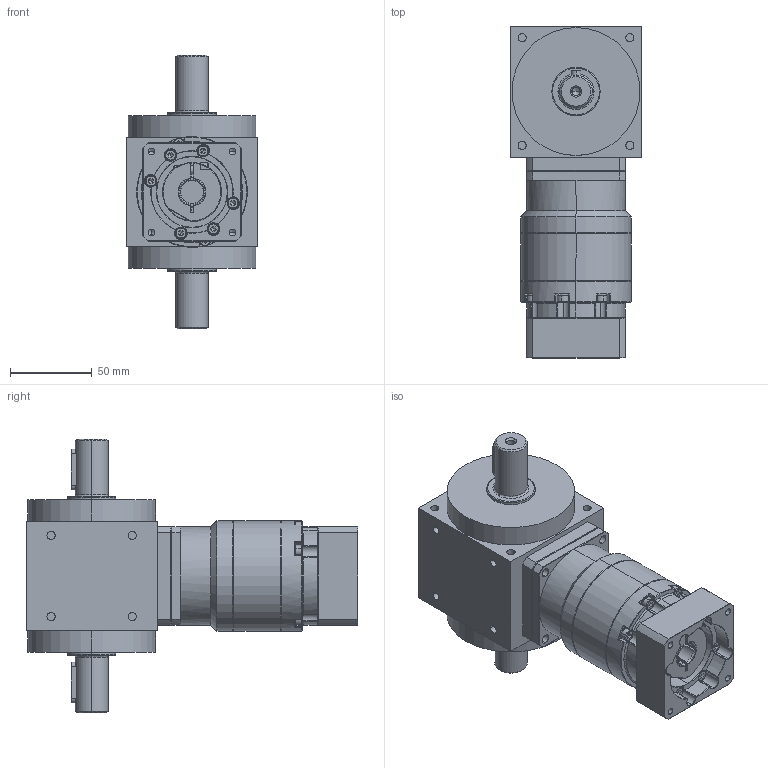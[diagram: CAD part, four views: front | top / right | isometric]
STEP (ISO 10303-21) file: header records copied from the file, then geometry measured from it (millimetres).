
FILE_DESCRIPTION (( 'STEP AP203' ), '1' );
FILE_NAME ('AAW080AS-L2-2P 14-50-70-M5.STEP', '2024-12-23T09:06:42', ( '' ), ( '' ), 'SwSTEP 2.0', 'SolidWorks 2021', '' );
FILE_SCHEMA (( 'CONFIG_CONTROL_DESIGN' ));
Length unit declared in the file: millimetre
Products named in the file (3): AAW080AS-L2-2P 14-50-70-M5; VRB-060-L2-S2-P1 14-50-70-M5; AAW080AS-2P
Assembly tree (2 placements, depth 2):
  AAW080AS-L2-2P 14-50-70-M5
    AAW080AS-2P
    VRB-060-L2-S2-P1 14-50-70-M5
Bounding box: 80 x 202.5 x 167 mm (x, y, z)
Volume: 867685.8 mm3; surface area: 126865.9 mm2
Topology: 33 solids, 33 shells, 1080 faces, 2601 edges, 1611 vertices
Faces by surface type: plane 420, cylinder 382, cone 208, torus 50, bspline 20
Entity records: 32780 total; most frequent: CARTESIAN_POINT 7152, DIRECTION 5612, ORIENTED_EDGE 5098, EDGE_CURVE 2549, AXIS2_PLACEMENT_3D 2240, VERTEX_POINT 1611, EDGE_LOOP 1200, CIRCLE 1175
